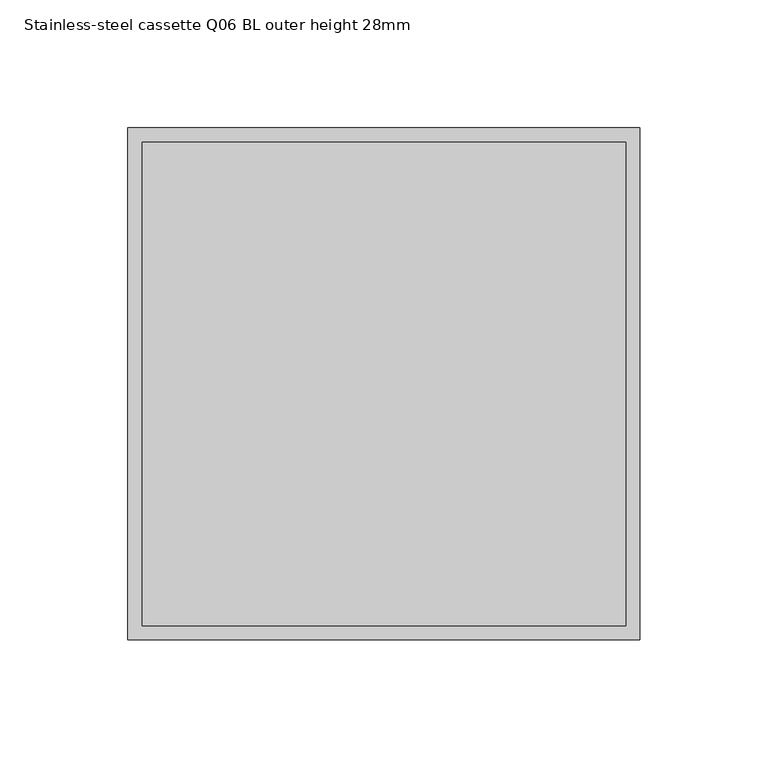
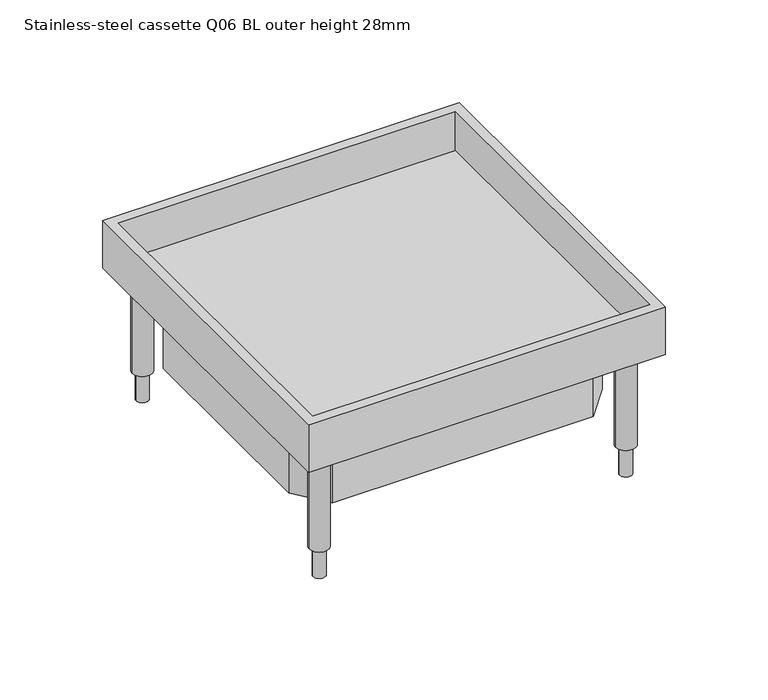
"""IFC4 building model written with IfcOpenShell, lengths in millimetres: proxy geometry, Electrical_Installation_Hager_VE-EE_EKQ-Height-adjustable-stainless-steel-cassette-blank-square-for-damp-cleaned-floors.rfa : Stainless-steel cassette Q06 BL outer height 28mm."""

from ifc_helpers import new_model, si_unit, point, frame, frame_2d, origin, place, context, project, spatial, polyline, circle_curve, trimmed, segment, composite_curve, outline, extrude, source, transform, mapped, element, save


def stainless_steel_cassette_q06_bl_outer_height_28mm_3feceee3(model_context):
    return source(origin(), model_context, "Body", "SweptSolid", [
        extrude(outline(composite_curve([segment(trimmed(circle_curve(frame_2d((-86.0, 86.0)), 3.5), [point((-89.5, 86.0))], [point((-82.5, 86.0))], False, "CARTESIAN"), True, "CONTINUOUS"), segment(trimmed(circle_curve(frame_2d((-86.0, 86.0)), 3.5), [point((-82.5, 86.0))], [point((-89.5, 86.0))], False, "CARTESIAN"), True, "CONTINUOUS")], self_intersect=False)), frame((0.0, 0.0, -100.0), z_axis=(0.0, 0.0, 1.0), x_axis=(1.0, 0.0, 0.0)), (0.0, 0.0, 1.0), 17.0011554),
        extrude(outline(composite_curve([segment(trimmed(circle_curve(frame_2d((86.0, 86.0)), 3.5), [point((82.5, 86.0))], [point((89.5, 86.0))], False, "CARTESIAN"), True, "CONTINUOUS"), segment(trimmed(circle_curve(frame_2d((86.0, 86.0)), 3.5), [point((89.5, 86.0))], [point((82.5, 86.0))], False, "CARTESIAN"), True, "CONTINUOUS")], self_intersect=False)), frame((0.0, 0.0, -100.0), z_axis=(0.0, 0.0, 1.0), x_axis=(1.0, 0.0, 0.0)), (0.0, 0.0, 1.0), 17.0011554),
        extrude(outline(composite_curve([segment(trimmed(circle_curve(frame_2d((86.0, -86.0)), 3.523354), [point((82.476646, -86.0))], [point((89.523354, -86.0))], False, "CARTESIAN"), True, "CONTINUOUS"), segment(trimmed(circle_curve(frame_2d((86.0, -86.0)), 3.523354), [point((89.523354, -86.0))], [point((82.476646, -86.0))], False, "CARTESIAN"), True, "CONTINUOUS")], self_intersect=False)), frame((0.0, 0.0, -100.0), z_axis=(0.0, 0.0, 1.0), x_axis=(1.0, 0.0, 0.0)), (0.0, 0.0, 1.0), 17.0011554),
        extrude(outline(composite_curve([segment(trimmed(circle_curve(frame_2d((-86.0, -86.0)), 3.5), [point((-89.5, -86.0))], [point((-82.5, -86.0))], False, "CARTESIAN"), True, "CONTINUOUS"), segment(trimmed(circle_curve(frame_2d((-86.0, -86.0)), 3.5), [point((-82.5, -86.0))], [point((-89.5, -86.0))], False, "CARTESIAN"), True, "CONTINUOUS")], self_intersect=False)), frame((0.0, 0.0, -100.0), z_axis=(0.0, 0.0, 1.0), x_axis=(1.0, 0.0, 0.0)), (0.0, 0.0, 1.0), 17.0011554),
        extrude(outline(polyline([(4.7, 77.5), (73.3639966, 77.5), (88.0, 60.5470649), (88.0, -59.6394213), (72.7984665, -77.5), (-73.867755, -77.5), (-88.0, -59.6801256), (-88.0, 62.043544), (-73.6272863, 77.5), (4.7, 77.5)]), holes=[polyline([(-85.0, 60.8642535), (-85.0, -58.634929), (-72.4180331, -74.5), (71.4123304, -74.5), (85.0, -58.5355815), (85.0, 59.4312235), (71.9906502, 74.5), (4.7, 74.5), (-72.3203352, 74.5), (-85.0, 60.8642535)])]), frame((0.0, 0.0, -67.0), z_axis=(0.0, 0.0, 1.0), x_axis=(1.0, 0.0, 0.0)), (0.0, 0.0, 1.0), 41.0),
        extrude(outline(polyline([(94.5, 94.5), (94.5, -94.5), (-94.5, -94.5), (-94.5, 94.5), (94.5, 94.5)])), frame((0.0, 0.0, -26.0), z_axis=(0.0, 0.0, 1.0), x_axis=(1.0, 0.0, 0.0)), (0.0, 0.0, 1.0), 5.0),
        extrude(outline(composite_curve([segment(trimmed(circle_curve(frame_2d((-86.0, 86.0)), 5.5), [point((-91.5, 86.0))], [point((-80.5, 86.0))], False, "CARTESIAN"), True, "CONTINUOUS"), segment(trimmed(circle_curve(frame_2d((-86.0, 86.0)), 5.5), [point((-80.5, 86.0))], [point((-91.5, 86.0))], False, "CARTESIAN"), True, "CONTINUOUS")], self_intersect=False)), frame((0.0, 0.0, -82.9988446), z_axis=(0.0, 0.0, 1.0), x_axis=(1.0, 0.0, 0.0)), (0.0, 0.0, 1.0), 56.9988446),
        extrude(outline(composite_curve([segment(trimmed(circle_curve(frame_2d((86.0, 86.0)), 5.5), [point((80.5, 86.0))], [point((91.5, 86.0))], False, "CARTESIAN"), True, "CONTINUOUS"), segment(trimmed(circle_curve(frame_2d((86.0, 86.0)), 5.5), [point((91.5, 86.0))], [point((80.5, 86.0))], False, "CARTESIAN"), True, "CONTINUOUS")], self_intersect=False)), frame((0.0, 0.0, -82.9988446), z_axis=(0.0, 0.0, 1.0), x_axis=(1.0, 0.0, 0.0)), (0.0, 0.0, 1.0), 56.9988446),
        extrude(outline(composite_curve([segment(trimmed(circle_curve(frame_2d((-86.0, -86.0)), 5.5), [point((-91.5, -86.0))], [point((-80.5, -86.0))], False, "CARTESIAN"), True, "CONTINUOUS"), segment(trimmed(circle_curve(frame_2d((-86.0, -86.0)), 5.5), [point((-80.5, -86.0))], [point((-91.5, -86.0))], False, "CARTESIAN"), True, "CONTINUOUS")], self_intersect=False)), frame((0.0, 0.0, -82.9988446), z_axis=(0.0, 0.0, 1.0), x_axis=(1.0, 0.0, 0.0)), (0.0, 0.0, 1.0), 56.9988446),
        extrude(outline(composite_curve([segment(trimmed(circle_curve(frame_2d((86.0, -86.0)), 5.5), [point((80.5, -86.0))], [point((91.5, -86.0))], False, "CARTESIAN"), True, "CONTINUOUS"), segment(trimmed(circle_curve(frame_2d((86.0, -86.0)), 5.5), [point((91.5, -86.0))], [point((80.5, -86.0))], False, "CARTESIAN"), True, "CONTINUOUS")], self_intersect=False)), frame((0.0, 0.0, -82.9988446), z_axis=(0.0, 0.0, 1.0), x_axis=(1.0, 0.0, 0.0)), (0.0, 0.0, 1.0), 56.9988446),
        extrude(outline(polyline([(100.0, 100.0), (100.0, -100.0), (-100.0, -100.0), (-100.0, 100.0), (100.0, 100.0)]), holes=[polyline([(94.5, 94.5), (-94.5, 94.5), (-94.5, -94.5), (94.5, -94.5), (94.5, 94.5)])]), frame((0.0, 0.0, -26.0), z_axis=(0.0, 0.0, 1.0), x_axis=(1.0, 0.0, 0.0)), (0.0, 0.0, 1.0), 28.0),
    ])


if __name__ == "__main__":
    model = new_model("IFC4")
    model_context = context("Model", 3, world=origin())
    ifc_project = project(units=[si_unit("LENGTHUNIT", "METRE", prefix="MILLI")], contexts=[model_context])
    site = spatial("IfcSite", under=ifc_project)
    building = spatial("IfcBuilding", under=site)
    placement = place(None, origin())
    stainless_steel_cassette_q06_bl_outer_height_28mm_shape = stainless_steel_cassette_q06_bl_outer_height_28mm_3feceee3(model_context)
    element("IfcBuildingElementProxy", 1, Name="Electrical_Installation_Hager_VE-EE_EKQ-Height-adjustable-stainless-steel-cassette-blank-square-for-damp-cleaned-floors.rfa : Stainless-steel cassette Q06 BL outer height 28mm", ObjectType="Electrical_Installation_Hager_VE-EE_EKQ-Height-adjustable-stainless-steel-cassette-blank-square-for-damp-cleaned-floors.rfa : Stainless-steel cassette Q06 BL outer height 28mm", at=placement, inside=building, context=model_context, shape_type="MappedRepresentation", body=[
        mapped(stainless_steel_cassette_q06_bl_outer_height_28mm_shape, transform((0.0, 0.0, 0.0), x_axis=(1.0, 0.0, 0.0), y_axis=(0.0, 1.0, 0.0), z_axis=(0.0, 0.0, 1.0))),
    ])
    save(model, "model.ifc")
